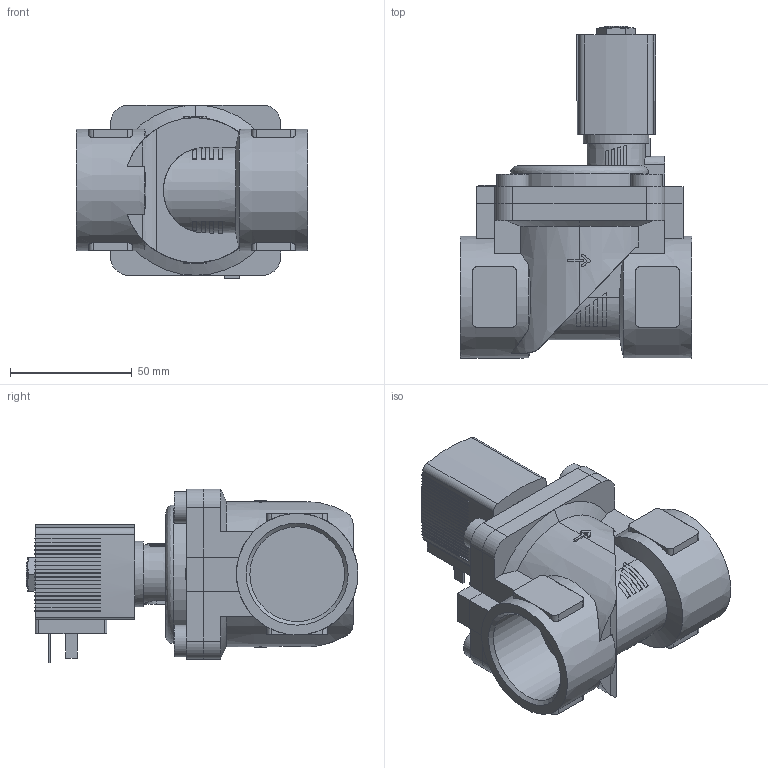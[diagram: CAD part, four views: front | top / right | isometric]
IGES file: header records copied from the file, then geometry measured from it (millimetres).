
Start section: Data from Parasolid IGES Translator 26.0.171, Copyright(c) 2006 Siemens PLM Software. All Rights Reserved.
Global section: file name: 6281-241045-2_2-Way_Solenoid_Valve__Servo-assisted__General_Purpose.igs; native system: By Siemens PLM Incorporated; preprocessor: XPlus GENERIC/IGES 26.0.171; author: Noname; organization: Noname; date: 20240606.215534; units: millimetre
Bounding box: 95 x 136.5 x 71.5 mm (x, y, z)
Surface area: 61670 mm2 (no closed solid volume)
Topology: 0 solids, 0 shells, 547 faces, 3034 edges, 3015 vertices
Faces by surface type: extrusion 432, revolution 115
